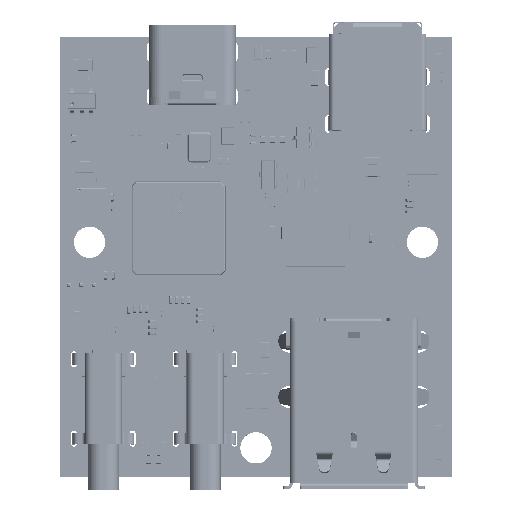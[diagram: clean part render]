
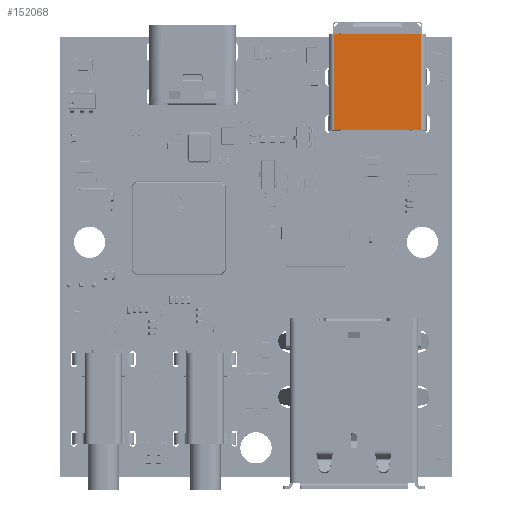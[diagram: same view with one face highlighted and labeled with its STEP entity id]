
A CAD part, top view. The second image highlights one B-rep face of the part: STEP entity #152068.
In plain terms, the highlighted planar face has unit normal (0, 0, 1).
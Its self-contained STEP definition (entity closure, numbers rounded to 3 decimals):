
#21982=FACE_OUTER_BOUND('',#30323,.T.);
#30323=EDGE_LOOP('',(#131911,#131912,#131913,#131914));
#44385=LINE('',#271798,#60101);
#44386=LINE('',#271802,#60102);
#44403=LINE('',#271849,#60119);
#44465=LINE('',#272003,#60181);
#60101=VECTOR('',#195668,1.);
#60102=VECTOR('',#195673,1.);
#60119=VECTOR('',#195706,1.);
#60181=VECTOR('',#195842,1.);
#74275=VERTEX_POINT('',#271795);
#74276=VERTEX_POINT('',#271797);
#74277=VERTEX_POINT('',#271801);
#74299=VERTEX_POINT('',#271848);
#93889=EDGE_CURVE('',#74276,#74275,#44385,.T.);
#93891=EDGE_CURVE('',#74277,#74276,#44386,.T.);
#93915=EDGE_CURVE('',#74299,#74277,#44403,.T.);
#93999=EDGE_CURVE('',#74299,#74275,#44465,.T.);
#131911=ORIENTED_EDGE('',*,*,#93889,.T.);
#131912=ORIENTED_EDGE('',*,*,#93999,.F.);
#131913=ORIENTED_EDGE('',*,*,#93915,.T.);
#131914=ORIENTED_EDGE('',*,*,#93891,.T.);
#144560=PLANE('',#163486);
#152068=ADVANCED_FACE('',(#21982),#144560,.F.);
#163486=AXIS2_PLACEMENT_3D('',#272002,#195840,#195841);
#195668=DIRECTION('',(0.,-1.,0.));
#195673=DIRECTION('',(-1.,0.,0.));
#195706=DIRECTION('',(0.,1.,0.));
#195840=DIRECTION('center_axis',(0.,0.,-1.));
#195841=DIRECTION('ref_axis',(0.,-1.,0.));
#195842=DIRECTION('',(-1.,0.,0.));
#271795=CARTESIAN_POINT('',(41.392,16.114,-142.85));
#271797=CARTESIAN_POINT('',(41.392,24.914,-142.85));
#271798=CARTESIAN_POINT('',(41.392,20.514,-142.85));
#271801=CARTESIAN_POINT('',(51.292,24.914,-142.85));
#271802=CARTESIAN_POINT('',(46.342,24.914,-142.85));
#271848=CARTESIAN_POINT('',(51.292,16.114,-142.85));
#271849=CARTESIAN_POINT('',(51.292,20.514,-142.85));
#272002=CARTESIAN_POINT('Origin',(41.194,15.938,-142.85));
#272003=CARTESIAN_POINT('',(46.342,16.114,-142.85));
